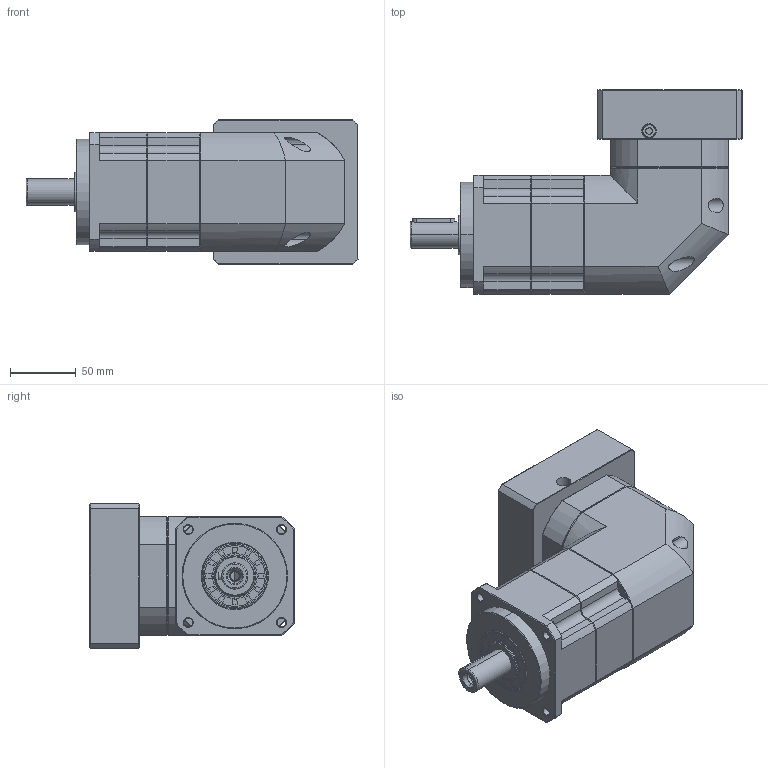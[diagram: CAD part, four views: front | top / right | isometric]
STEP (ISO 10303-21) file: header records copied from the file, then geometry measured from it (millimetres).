
FILE_DESCRIPTION (( 'STEP AP214' ), '1' );
FILE_NAME ('ZPBR090-D20-L2-P1-19-95-130-M8.step', '2024-06-07T18:31:24', ( 'Windows 蚚誧' ), ( 'Organization' ), 'SwSTEP 2.0', 'SolidWorks 2016', '' );
FILE_SCHEMA (( 'AUTOMOTIVE_DESIGN' ));
Length unit declared in the file: millimetre
Products named in the file (1): ZPBR090-D20-L2-P1-19-95-130-M8
Bounding box: 252 x 155 x 110 mm (x, y, z)
Surface area: 153479.9 mm2 (no closed solid volume)
Topology: 0 solids, 33 shells, 1892 faces, 4995 edges, 3188 vertices
Faces by surface type: plane 1009, bspline 373, cone 264, cylinder 229, torus 17
Full cylindrical faces by diameter (mm): 6.72 x1
Entity records: 93631 total; most frequent: CARTESIAN_POINT 45998, ORIENTED_EDGE 9941, DIRECTION 7792, EDGE_CURVE 4990, LINE 3308, VECTOR 3308, VERTEX_POINT 3186, AXIS2_PLACEMENT_3D 2242
